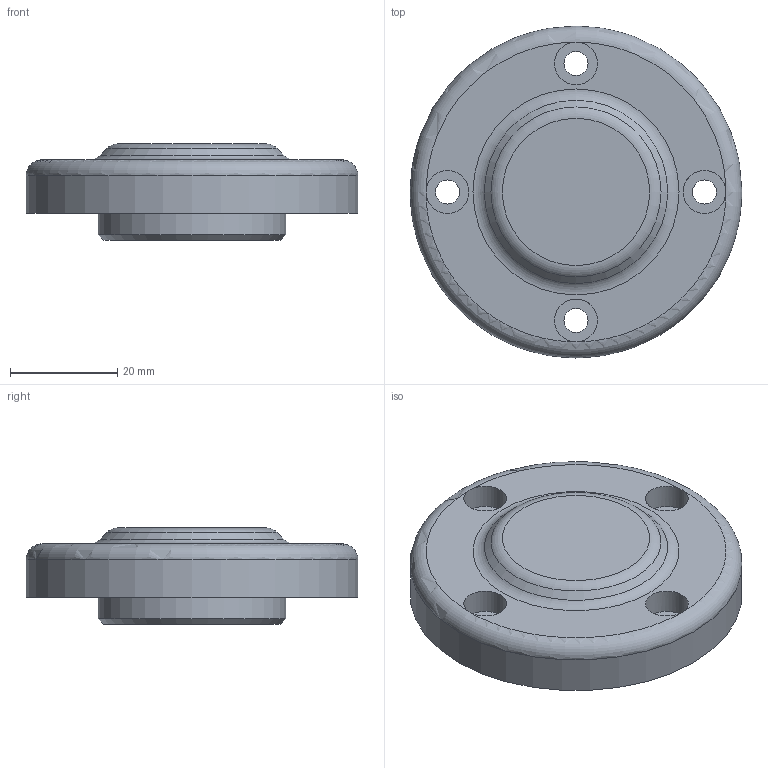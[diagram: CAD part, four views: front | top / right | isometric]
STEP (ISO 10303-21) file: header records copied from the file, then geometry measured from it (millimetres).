
FILE_DESCRIPTION(/* description */ (''),/* implementation_level */ '2;1');
FILE_NAME(/* name */ '',/* time_stamp */ '2024-07-17T10:28:01+09:00',/* author */ ('jhkim'),/* organization */ (''),/* preprocessor_version */ 'ST-DEVELOPER v20',/* originating_system */ 'Autodesk Inventor 2025',/* authorisation */ '');
FILE_SCHEMA (('AUTOMOTIVE_DESIGN { 1 0 10303 214 3 1 1 }'));
Length unit declared in the file: millimetre
Products named in the file (1): 뒤커버
Bounding box: 62 x 62 x 18 mm (x, y, z)
Volume: 28993 mm3; surface area: 9774.9 mm2
Topology: 1 solids, 1 shells, 26 faces, 56 edges, 35 vertices
Faces by surface type: cylinder 11, plane 9, torus 4, cone 2
Full cylindrical faces by diameter (mm): 4.5 x4, 8 x4, 30 x1, 35 x1, 62 x1
Entity records: 786 total; most frequent: DIRECTION 153, CARTESIAN_POINT 118, ORIENTED_EDGE 112, AXIS2_PLACEMENT_3D 70, EDGE_CURVE 56, CIRCLE 43, EDGE_LOOP 37, VERTEX_POINT 35
